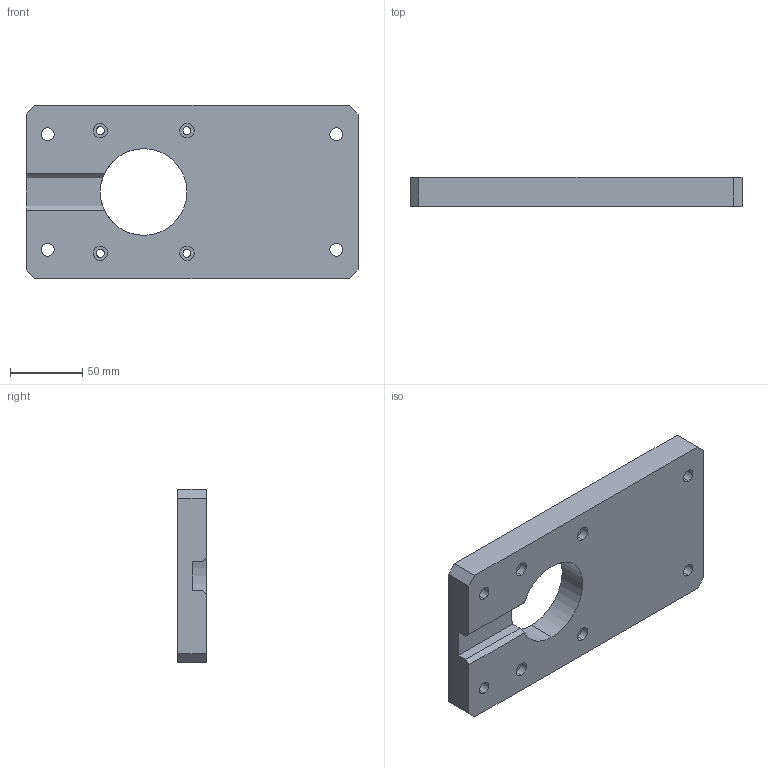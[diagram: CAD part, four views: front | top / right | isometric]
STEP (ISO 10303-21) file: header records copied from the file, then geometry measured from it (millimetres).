
FILE_DESCRIPTION (( 'STEP AP214' ), '1' );
FILE_NAME ('土台プレート.STEP', '2025-10-18T09:07:38', ( '' ), ( '' ), 'SwSTEP 2.0', 'SolidWorks 2023', '' );
FILE_SCHEMA (( 'AUTOMOTIVE_DESIGN' ));
Length unit declared in the file: millimetre
Products named in the file (1): 土台プレート
Bounding box: 230 x 20 x 120 mm (x, y, z)
Volume: 474891.5 mm3; surface area: 70735.7 mm2
Topology: 1 solids, 1 shells, 53 faces, 140 edges, 90 vertices
Faces by surface type: cylinder 30, plane 19, cone 4
Entity records: 1783 total; most frequent: DIRECTION 304, CARTESIAN_POINT 286, ORIENTED_EDGE 272, EDGE_CURVE 136, AXIS2_PLACEMENT_3D 116, VERTEX_POINT 90, EDGE_LOOP 76, VECTOR 72
